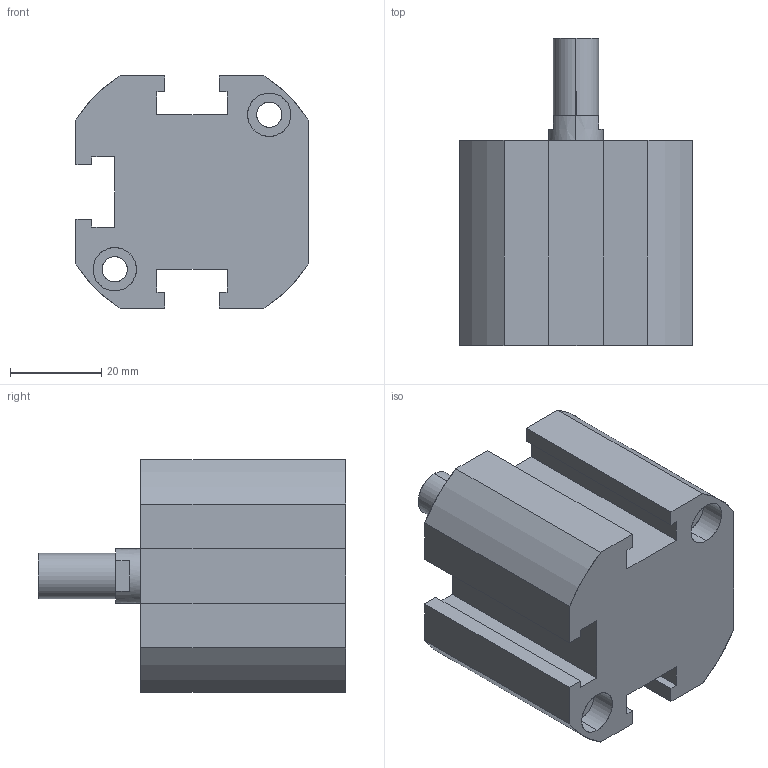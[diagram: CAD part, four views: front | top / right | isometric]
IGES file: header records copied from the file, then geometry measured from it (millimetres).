
Start section: SolidWorks IGES file using analytic representation for surfaces
Global section: file name: C:\Users\Toshiba\Desktop\XG#M1-32D-10.IGS; native system: SolidWorks 2014; preprocessor: SolidWorks 2014; author: Toshiba; date: 160524.100824; units: millimetre
Bounding box: 51 x 67.5 x 51 mm (x, y, z)
Surface area: 18728.3 mm2 (no closed solid volume)
Topology: 0 solids, 0 shells, 91 faces, 1412 edges, 1410 vertices
Faces by surface type: bspline 47, revolution 44
